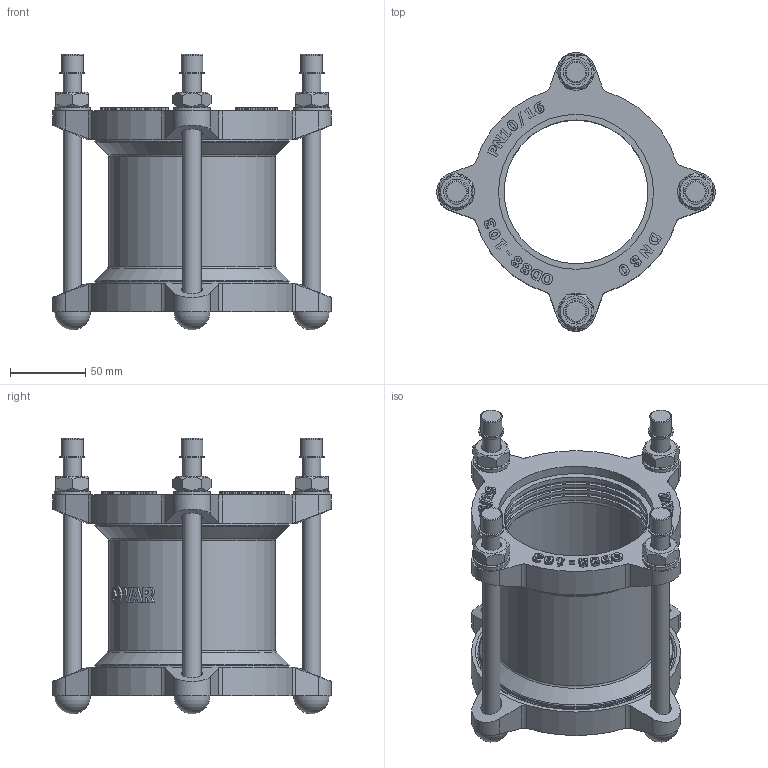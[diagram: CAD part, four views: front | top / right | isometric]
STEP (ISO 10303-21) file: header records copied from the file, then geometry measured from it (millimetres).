
FILE_DESCRIPTION(('STEP AP203'), '1');
FILE_NAME('Cîåäèíèòåëüíàÿ ìóôòà äëÿ æåñòêèõ òðóá', '', ('UNSPECIFIED'), ('UNSPECIFIED'), 'C3D Converter', 'C3D Toolkit', '');
FILE_SCHEMA(('CONFIG_CONTROL_DESIGN'));
Length unit declared in the file: millimetre
Assembly tree (21 placements, depth 2):
  (unnamed)
    (unnamed)
    (unnamed)  x4
    (unnamed)  x4
    (unnamed)  x4
    (unnamed)  x4
    (unnamed)
    (unnamed)
    (unnamed)  x2
Bounding box: 185 x 185 x 183.2 mm (x, y, z)
Volume: 617417.7 mm3; surface area: 254560.4 mm2
Topology: 25 solids, 25 shells, 802 faces, 2023 edges, 1330 vertices
Faces by surface type: extrusion 370, plane 267, cylinder 105, cone 34, torus 22, sphere 4
Full cylindrical faces by diameter (mm): 12 x12, 12.253 x1, 13 x4, 14 x8, 14.4 x4, 16.8 x4, 24 x4, 95.5 x8, 99.25 x6, 103 x3, 107 x2, 111 x3, 129 x2, 131 x4
Entity records: 31864 total; most frequent: CARTESIAN_POINT 11403, ORIENTED_EDGE 3514, DIRECTION 2147, EDGE_CURVE 1757, VERTEX_POINT 1200, B_SPLINE_CURVE_WITH_KNOTS 1172, VECTOR 1131, EDGE_LOOP 841
